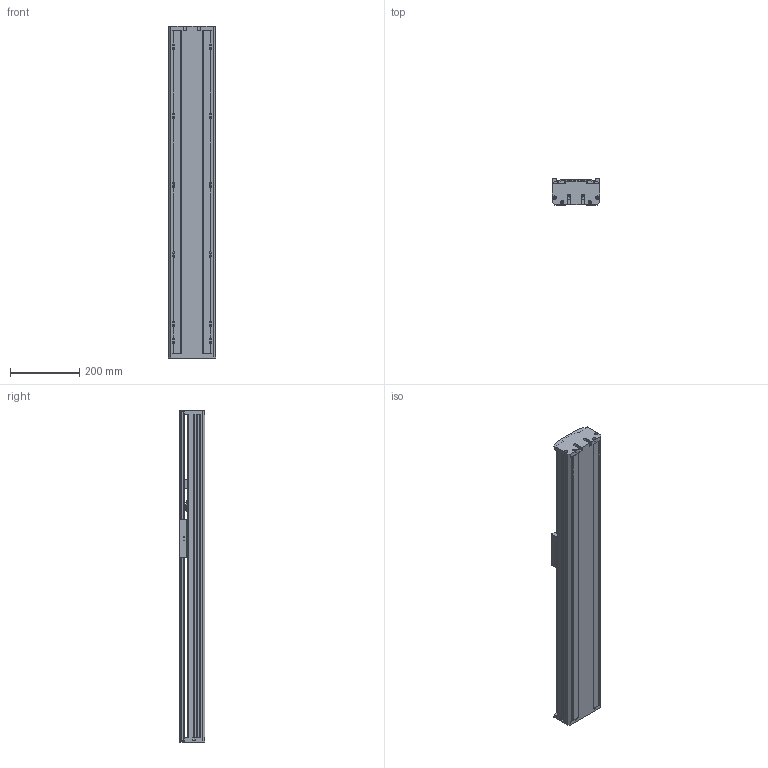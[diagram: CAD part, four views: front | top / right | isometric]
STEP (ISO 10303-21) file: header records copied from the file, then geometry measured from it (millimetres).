
FILE_DESCRIPTION(/* description */ (''),/* implementation_level */ '2;1');
FILE_NAME(/* name */ 'TKA136-FI-500_asm1.stp',/* time_stamp */ '2016-05-07T10:26:21+08:00',/* author */ (''),/* organization */ (''),/* preprocessor_version */ 'ST-DEVELOPER v15',/* originating_system */ 'SIEMENS PLM Software NX 8.5',/* authorisation */ '');
FILE_SCHEMA (('AUTOMOTIVE_DESIGN { 1 0 10303 214 3 1 1 1 }'));
Length unit declared in the file: millimetre
Products named in the file (3): 100-02; 100-01; TKA136-FI-500_asm1
Assembly tree (2 placements, depth 2):
  TKA136-FI-500_asm1
    100-01
    100-02
Bounding box: 136 x 75 x 959 mm (x, y, z)
Volume: 3047381.5 mm3; surface area: 1135588.8 mm2
Topology: 2 solids, 12 shells, 955 faces, 2750 edges, 1803 vertices
Faces by surface type: cylinder 469, plane 436, cone 50
Full cylindrical faces by diameter (mm): 2.5 x4, 3.3 x8, 4.2 x8, 4.5 x20, 5 x10, 5.5 x14, 8 x20, 10 x9, 10.5 x6, 11.6 x1, 12 x8, 15 x3, 16 x5, 24 x3, 26 x1, 28 x1, 46 x1
Entity records: 33341 total; most frequent: CARTESIAN_POINT 8697, ORIENTED_EDGE 5056, DIRECTION 5042, EDGE_CURVE 2528, AXIS2_PLACEMENT_3D 1872, VERTEX_POINT 1755, LINE 1298, VECTOR 1298
